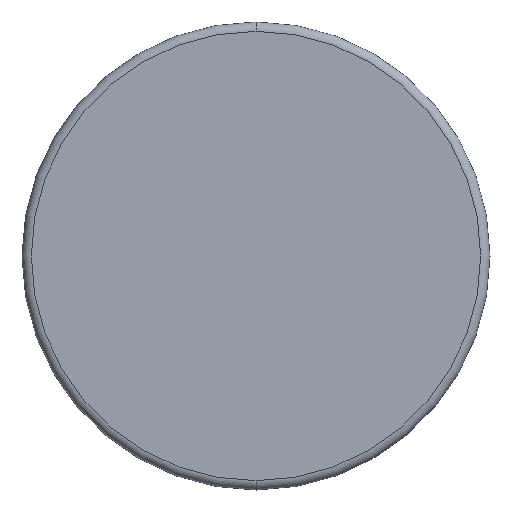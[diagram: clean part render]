
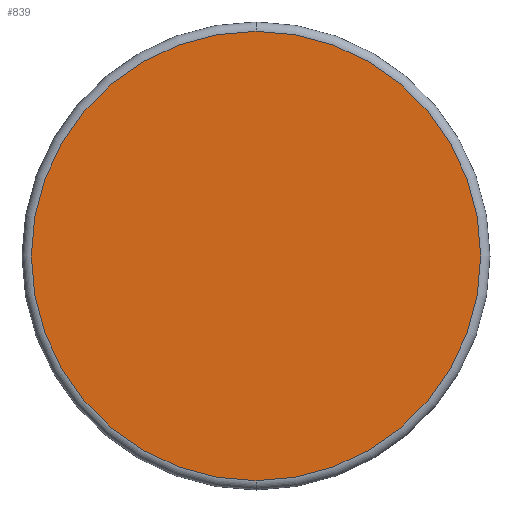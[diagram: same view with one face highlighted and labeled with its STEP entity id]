
A CAD part, front view. The second image highlights one B-rep face of the part: STEP entity #839.
In plain terms, the highlighted planar face has unit normal (0, -1, 0).
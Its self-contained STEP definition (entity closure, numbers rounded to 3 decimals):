
#61 = EDGE_CURVE ( 'NONE', #967, #997, #543, .T. ) ;
#72 = AXIS2_PLACEMENT_3D ( 'NONE', #734, #494, #501 ) ;
#254 = DIRECTION ( 'NONE',  ( 0., 0., 1. ) ) ;
#305 = AXIS2_PLACEMENT_3D ( 'NONE', #804, #947, #733 ) ;
#306 = EDGE_CURVE ( 'NONE', #997, #967, #764, .T. ) ;
#341 = FACE_OUTER_BOUND ( 'NONE', #722, .T. ) ;
#362 = AXIS2_PLACEMENT_3D ( 'NONE', #509, #483, #254 ) ;
#459 = ORIENTED_EDGE ( 'NONE', *, *, #61, .T. ) ;
#483 = DIRECTION ( 'NONE',  ( 0., 1., 0. ) ) ;
#494 = DIRECTION ( 'NONE',  ( 0., -1., 0. ) ) ;
#501 = DIRECTION ( 'NONE',  ( 0., 0., -1. ) ) ;
#509 = CARTESIAN_POINT ( 'NONE',  ( 0., 0., 0. ) ) ;
#543 = CIRCLE ( 'NONE', #72, 24. ) ;
#686 = CARTESIAN_POINT ( 'NONE',  ( 0., 0., -24. ) ) ;
#722 = EDGE_LOOP ( 'NONE', ( #459, #728 ) ) ;
#728 = ORIENTED_EDGE ( 'NONE', *, *, #306, .T. ) ;
#733 = DIRECTION ( 'NONE',  ( 0., 0., -1. ) ) ;
#734 = CARTESIAN_POINT ( 'NONE',  ( 0., 0., 0. ) ) ;
#752 = PLANE ( 'NONE',  #362 ) ;
#764 = CIRCLE ( 'NONE', #305, 24. ) ;
#804 = CARTESIAN_POINT ( 'NONE',  ( 0., 0., 0. ) ) ;
#839 = ADVANCED_FACE ( 'NONE', ( #341 ), #752, .F. ) ;
#947 = DIRECTION ( 'NONE',  ( 0., -1., 0. ) ) ;
#967 = VERTEX_POINT ( 'NONE', #686 ) ;
#997 = VERTEX_POINT ( 'NONE', #1002 ) ;
#1002 = CARTESIAN_POINT ( 'NONE',  ( 0., 0., 24. ) ) ;
